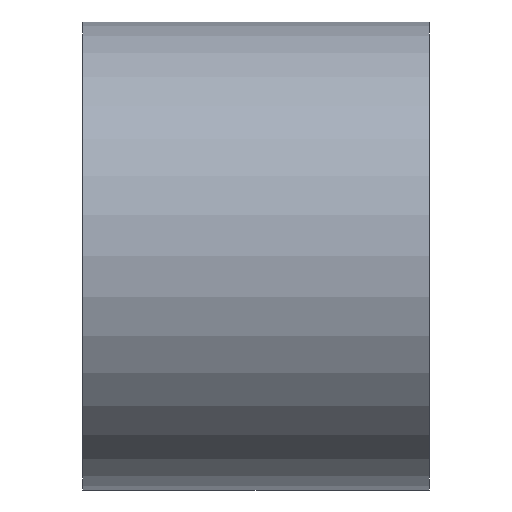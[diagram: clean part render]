
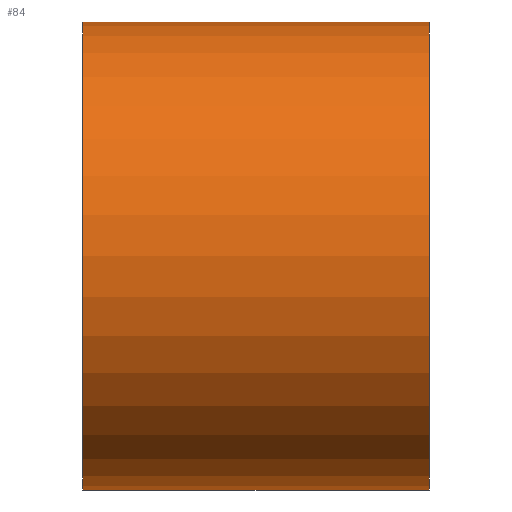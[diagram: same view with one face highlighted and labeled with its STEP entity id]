
A CAD part, front view. The second image highlights one B-rep face of the part: STEP entity #84.
In plain terms, the highlighted cylindrical face has radius 270 mm (diameter 540 mm), a partial arc.
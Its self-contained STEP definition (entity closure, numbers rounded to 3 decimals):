
#84=ADVANCED_FACE('',(#164),#165,.T.);
#164=FACE_OUTER_BOUND('',#255,.T.);
#165=CYLINDRICAL_SURFACE('',#256,270.0);
#255=EDGE_LOOP('',(#435,#436,#437,#438));
#256=AXIS2_PLACEMENT_3D('',#439,#440,#441);
#435=ORIENTED_EDGE('',*,*,#491,.T.);
#436=ORIENTED_EDGE('',*,*,#568,.F.);
#437=ORIENTED_EDGE('',*,*,#493,.T.);
#438=ORIENTED_EDGE('',*,*,#569,.F.);
#439=CARTESIAN_POINT('',(0.0,0.0,0.0));
#440=DIRECTION('',(1.0,0.0,0.0));
#441=DIRECTION('',(0.0,0.0,-1.0));
#491=EDGE_CURVE('',#573,#574,#575,.T.);
#493=EDGE_CURVE('',#578,#576,#579,.T.);
#568=EDGE_CURVE('',#578,#574,#690,.T.);
#569=EDGE_CURVE('',#573,#576,#691,.T.);
#573=VERTEX_POINT('',#695);
#574=VERTEX_POINT('',#696);
#575=LINE('',#697,#698);
#576=VERTEX_POINT('',#699);
#578=VERTEX_POINT('',#701);
#579=LINE('',#702,#703);
#690=CIRCLE('',#832,270.0);
#691=CIRCLE('',#833,270.0);
#695=CARTESIAN_POINT('',(-200.0,0.0,-270.0));
#696=CARTESIAN_POINT('',(200.0,0.0,-270.0));
#697=CARTESIAN_POINT('',(0.0,0.,-270.0));
#698=VECTOR('',#836,1.0);
#699=CARTESIAN_POINT('',(-200.0,0.,270.0));
#701=CARTESIAN_POINT('',(200.0,0.,270.0));
#702=CARTESIAN_POINT('',(0.0,0.,270.0));
#703=VECTOR('',#840,1.0);
#832=AXIS2_PLACEMENT_3D('',#970,#971,#972);
#833=AXIS2_PLACEMENT_3D('',#973,#974,#975);
#836=DIRECTION('',(1.0,0.0,0.0));
#840=DIRECTION('',(-1.0,-0.0,-0.0));
#970=CARTESIAN_POINT('',(200.0,0.0,0.0));
#971=DIRECTION('',(1.0,0.0,0.0));
#972=DIRECTION('',(0.0,0.0,-1.0));
#973=CARTESIAN_POINT('',(-200.0,0.0,0.0));
#974=DIRECTION('',(-1.0,0.0,0.0));
#975=DIRECTION('',(0.0,0.0,-1.0));
